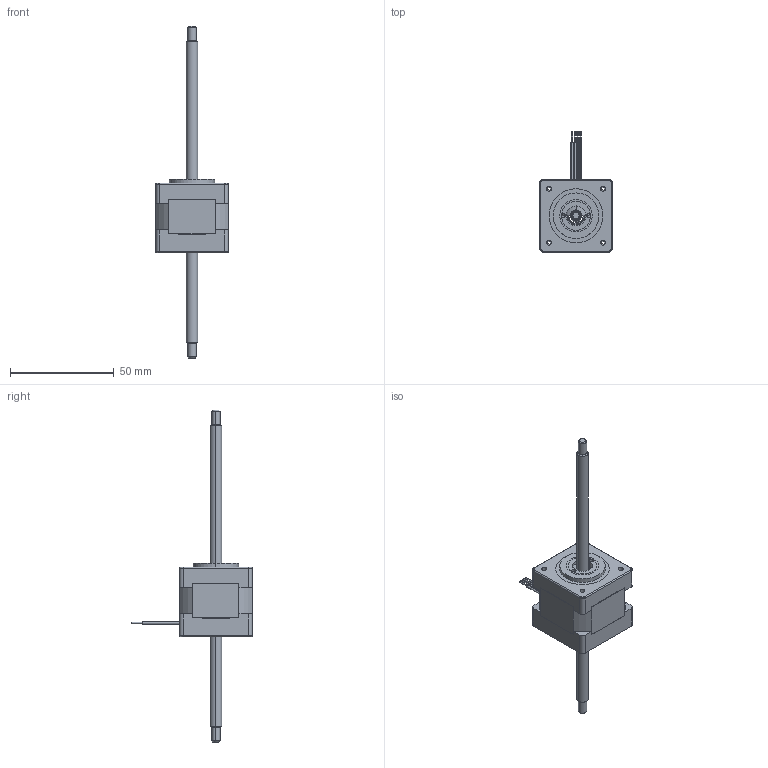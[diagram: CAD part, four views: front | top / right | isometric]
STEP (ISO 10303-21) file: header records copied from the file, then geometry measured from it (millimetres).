
FILE_DESCRIPTION (( 'STEP AP203' ), '1' );
FILE_NAME ('35¹áÍ¨.STEP', '2014-09-12T05:14:42', ( 'user' ), ( 'pxctfys' ), 'SwSTEP 2.0', 'SolidWorks 2012', '' );
FILE_SCHEMA (( 'CONFIG_CONTROL_DESIGN' ));
Length unit declared in the file: millimetre
Products named in the file (1): 35嫗籵
Bounding box: 35 x 58 x 160 mm (x, y, z)
Surface area: 13517.4 mm2 (no closed solid volume)
Topology: 0 solids, 21 shells, 234 faces, 1417 edges, 1197 vertices
Faces by surface type: plane 119, cylinder 81, torus 22, cone 10, bspline 2
Entity records: 15016 total; most frequent: CARTESIAN_POINT 3816, DIRECTION 2576, ORIENTED_EDGE 1894, EDGE_CURVE 1417, VERTEX_POINT 1197, AXIS2_PLACEMENT_3D 989, CIRCLE 756, LINE 598
